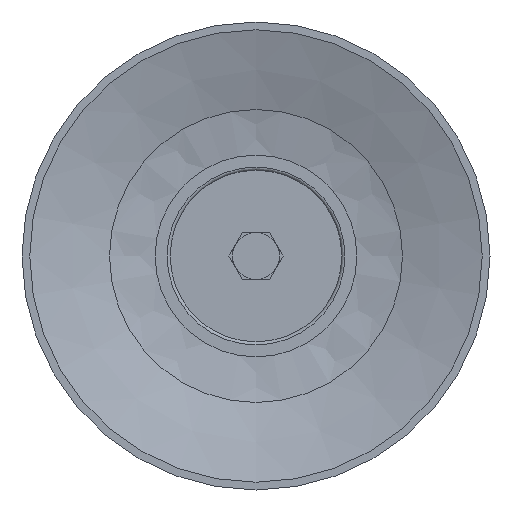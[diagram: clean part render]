
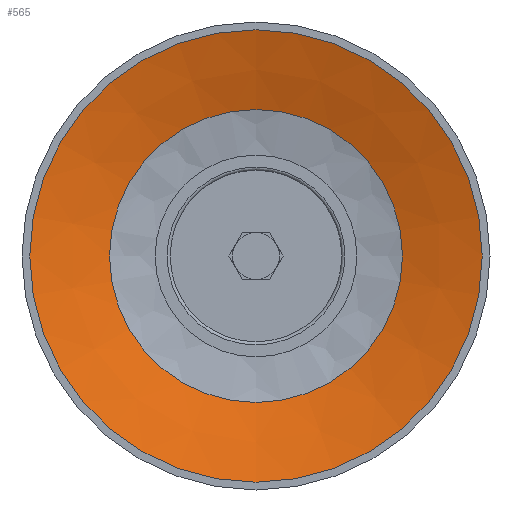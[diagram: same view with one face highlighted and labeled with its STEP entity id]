
A CAD part, front view. The second image highlights one B-rep face of the part: STEP entity #565.
In plain terms, the highlighted conical face has half-angle 73 degrees and reference radius 7.958 mm.
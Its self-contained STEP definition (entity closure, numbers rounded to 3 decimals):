
#565=ADVANCED_FACE('',(#841,#842),#843,.F.);
#841=FACE_BOUND('',#1140,.T.);
#842=FACE_OUTER_BOUND('',#1141,.T.);
#843=CONICAL_SURFACE('',#1142,7.958,1.274);
#1140=EDGE_LOOP('',(#1958));
#1141=EDGE_LOOP('',(#1959));
#1142=AXIS2_PLACEMENT_3D('',#1960,#1961,#1962);
#1958=ORIENTED_EDGE('',*,*,#2225,.T.);
#1959=ORIENTED_EDGE('',*,*,#2226,.T.);
#1960=CARTESIAN_POINT('',(0.0,9.363,0.0));
#1961=DIRECTION('',(-0.0,-1.0,0.));
#1962=DIRECTION('',(0.0,0.,-1.0));
#2225=EDGE_CURVE('',#2588,#2588,#2589,.T.);
#2226=EDGE_CURVE('',#2590,#2590,#2591,.T.);
#2588=VERTEX_POINT('',#3435);
#2589=CIRCLE('',#3436,9.388);
#2590=VERTEX_POINT('',#3437);
#2591=CIRCLE('',#3438,14.5);
#3435=CARTESIAN_POINT('',(0.0,8.926,-9.388));
#3436=AXIS2_PLACEMENT_3D('',#3774,#3775,#3776);
#3437=CARTESIAN_POINT('',(0.0,7.363,-14.5));
#3438=AXIS2_PLACEMENT_3D('',#3777,#3778,#3779);
#3774=CARTESIAN_POINT('',(0.0,8.926,0.0));
#3775=DIRECTION('',(0.0,1.0,0.));
#3776=DIRECTION('',(0.0,0.,-1.0));
#3777=CARTESIAN_POINT('',(0.0,7.363,0.0));
#3778=DIRECTION('',(0.0,-1.0,0.));
#3779=DIRECTION('',(0.0,0.,-1.0));
